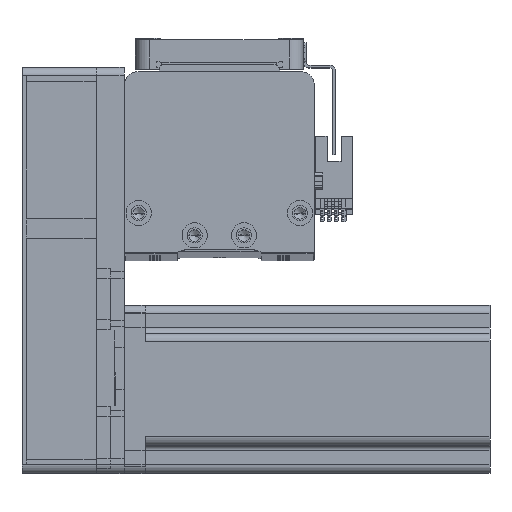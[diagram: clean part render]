
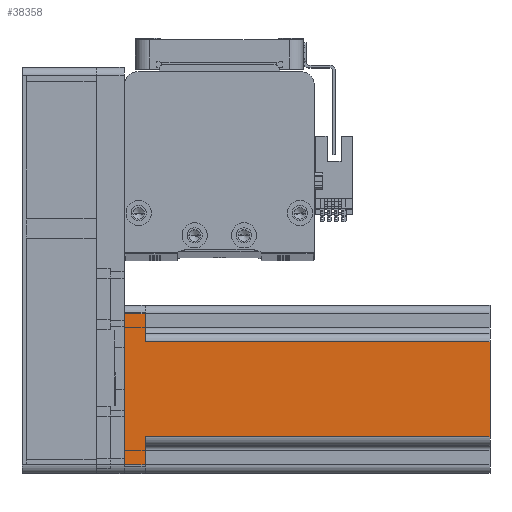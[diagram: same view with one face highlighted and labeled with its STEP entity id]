
A CAD part, top view. The second image highlights one B-rep face of the part: STEP entity #38358.
In plain terms, the highlighted planar face has unit normal (0, 0, 1) as drawn and (0, -1, 0) by its records, which use the part's own axes.
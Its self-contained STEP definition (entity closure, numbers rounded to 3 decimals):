
#3475 = VECTOR ( 'NONE', #11226, 1000. ) ;
#3846 = VECTOR ( 'NONE', #12058, 1000. ) ;
#3948 = CARTESIAN_POINT ( 'NONE',  ( -20., -30., 7.5 ) ) ;
#4629 = LINE ( 'NONE', #26520, #3475 ) ;
#6119 = VERTEX_POINT ( 'NONE', #35513 ) ;
#6276 = DIRECTION ( 'NONE',  ( 0., 1., 0. ) ) ;
#6592 = CARTESIAN_POINT ( 'NONE',  ( 17., -30., 130.7 ) ) ;
#7704 = LINE ( 'NONE', #36954, #37252 ) ;
#8278 = LINE ( 'NONE', #6592, #17334 ) ;
#8751 = VECTOR ( 'NONE', #41362, 1000. ) ;
#11211 = LINE ( 'NONE', #29882, #8751 ) ;
#11226 = DIRECTION ( 'NONE',  ( -1., 0., 0. ) ) ;
#11438 = EDGE_CURVE ( 'NONE', #6119, #37510, #7704, .T. ) ;
#12058 = DIRECTION ( 'NONE',  ( 0., 0., 1. ) ) ;
#12127 = VECTOR ( 'NONE', #18384, 1000. ) ;
#13516 = EDGE_CURVE ( 'NONE', #25390, #30794, #11211, .T. ) ;
#13891 = DIRECTION ( 'NONE',  ( 0., 0., -1. ) ) ;
#13902 = CARTESIAN_POINT ( 'NONE',  ( -17., -30., 7.5 ) ) ;
#14709 = EDGE_LOOP ( 'NONE', ( #31084, #22970, #35718, #37850, #21451, #24242, #36331, #18157 ) ) ;
#15702 = FACE_OUTER_BOUND ( 'NONE', #14709, .T. ) ;
#17047 = LINE ( 'NONE', #19667, #46592 ) ;
#17334 = VECTOR ( 'NONE', #37431, 1000. ) ;
#18157 = ORIENTED_EDGE ( 'NONE', *, *, #29664, .T. ) ;
#18384 = DIRECTION ( 'NONE',  ( 0., 0., -1. ) ) ;
#18782 = VERTEX_POINT ( 'NONE', #20125 ) ;
#19667 = CARTESIAN_POINT ( 'NONE',  ( 30., -30., 130.7 ) ) ;
#20125 = CARTESIAN_POINT ( 'NONE',  ( 27., -30., 7.5 ) ) ;
#20327 = CARTESIAN_POINT ( 'NONE',  ( -27., -30., 0. ) ) ;
#20888 = EDGE_CURVE ( 'NONE', #25972, #37510, #38598, .T. ) ;
#21451 = ORIENTED_EDGE ( 'NONE', *, *, #13516, .T. ) ;
#21576 = CARTESIAN_POINT ( 'NONE',  ( 27., -30., 0. ) ) ;
#22408 = LINE ( 'NONE', #33694, #12127 ) ;
#22970 = ORIENTED_EDGE ( 'NONE', *, *, #11438, .T. ) ;
#23021 = VERTEX_POINT ( 'NONE', #31754 ) ;
#23708 = CARTESIAN_POINT ( 'NONE',  ( 27., -30., 130.7 ) ) ;
#23895 = EDGE_CURVE ( 'NONE', #25972, #25390, #22408, .T. ) ;
#24242 = ORIENTED_EDGE ( 'NONE', *, *, #31438, .T. ) ;
#25390 = VERTEX_POINT ( 'NONE', #20327 ) ;
#25947 = VECTOR ( 'NONE', #30923, 1000. ) ;
#25972 = VERTEX_POINT ( 'NONE', #31880 ) ;
#26520 = CARTESIAN_POINT ( 'NONE',  ( 20., -30., 7.5 ) ) ;
#29361 = CARTESIAN_POINT ( 'NONE',  ( 30., -30., 130.7 ) ) ;
#29664 = EDGE_CURVE ( 'NONE', #32562, #23021, #8278, .T. ) ;
#29882 = CARTESIAN_POINT ( 'NONE',  ( 30., -30., 0. ) ) ;
#30794 = VERTEX_POINT ( 'NONE', #21576 ) ;
#30923 = DIRECTION ( 'NONE',  ( 1., 0., 0. ) ) ;
#31084 = ORIENTED_EDGE ( 'NONE', *, *, #37204, .F. ) ;
#31438 = EDGE_CURVE ( 'NONE', #30794, #18782, #43668, .T. ) ;
#31754 = CARTESIAN_POINT ( 'NONE',  ( 17., -30., 130.7 ) ) ;
#31880 = CARTESIAN_POINT ( 'NONE',  ( -27., -30., 7.5 ) ) ;
#32562 = VERTEX_POINT ( 'NONE', #40922 ) ;
#33239 = DIRECTION ( 'NONE',  ( -1., 0., 0. ) ) ;
#33694 = CARTESIAN_POINT ( 'NONE',  ( -27., -30., 130.7 ) ) ;
#35513 = CARTESIAN_POINT ( 'NONE',  ( -17., -30., 130.7 ) ) ;
#35718 = ORIENTED_EDGE ( 'NONE', *, *, #20888, .F. ) ;
#36331 = ORIENTED_EDGE ( 'NONE', *, *, #48662, .T. ) ;
#36943 = PLANE ( 'NONE',  #45523 ) ;
#36954 = CARTESIAN_POINT ( 'NONE',  ( -17., -30., 130.7 ) ) ;
#37204 = EDGE_CURVE ( 'NONE', #6119, #23021, #17047, .T. ) ;
#37252 = VECTOR ( 'NONE', #13891, 1000. ) ;
#37431 = DIRECTION ( 'NONE',  ( 0., 0., 1. ) ) ;
#37510 = VERTEX_POINT ( 'NONE', #13902 ) ;
#37850 = ORIENTED_EDGE ( 'NONE', *, *, #23895, .T. ) ;
#38358 = ADVANCED_FACE ( 'NONE', ( #15702 ), #36943, .F. ) ;
#38598 = LINE ( 'NONE', #3948, #25947 ) ;
#40922 = CARTESIAN_POINT ( 'NONE',  ( 17., -30., 7.5 ) ) ;
#41362 = DIRECTION ( 'NONE',  ( 1., 0., 0. ) ) ;
#42578 = DIRECTION ( 'NONE',  ( 1., 0., 0. ) ) ;
#43668 = LINE ( 'NONE', #23708, #3846 ) ;
#45523 = AXIS2_PLACEMENT_3D ( 'NONE', #29361, #6276, #33239 ) ;
#46592 = VECTOR ( 'NONE', #42578, 1000. ) ;
#48662 = EDGE_CURVE ( 'NONE', #18782, #32562, #4629, .T. ) ;
